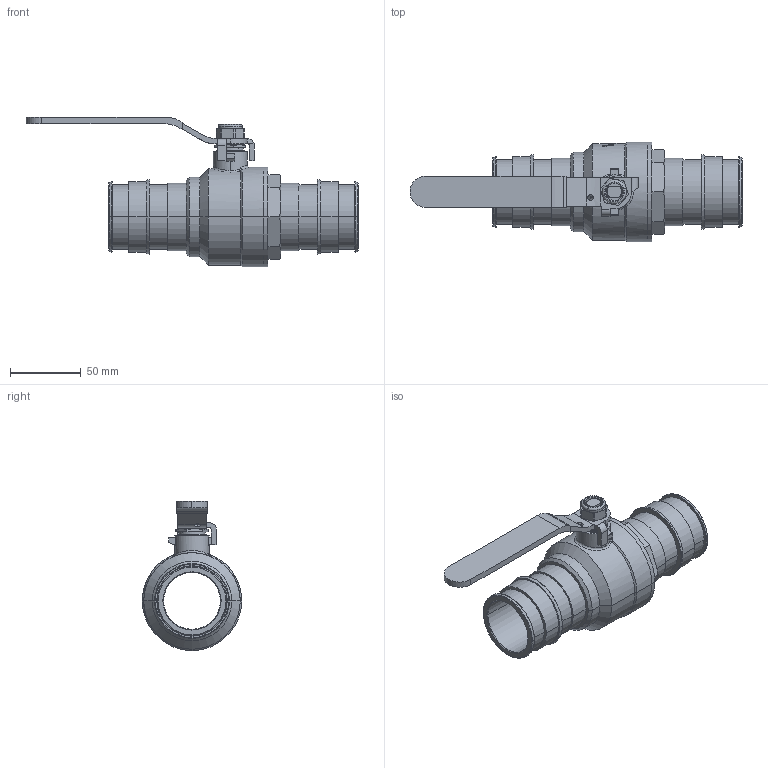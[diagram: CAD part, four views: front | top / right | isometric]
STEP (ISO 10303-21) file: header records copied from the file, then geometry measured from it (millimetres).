
FILE_DESCRIPTION(('Open CASCADE Model'),'2;1');
FILE_NAME('Open CASCADE Shape Model','2021-11-23T09:42:51',('Author'),( 'Open CASCADE'),'Open CASCADE STEP processor 7.3','Open CASCADE 7.3' ,'Unknown');
FILE_SCHEMA(('AUTOMOTIVE_DESIGN { 1 0 10303 214 1 1 1 1 }'));
Length unit declared in the file: millimetre
Products named in the file (12): Open CASCADE STEP translator 7.3 1; Open CASCADE STEP translator 7.3 1.1; Open CASCADE STEP translator 7.3 1.2; Open CASCADE STEP translator 7.3 1.3; Open CASCADE STEP translator 7.3 1.4; Open CASCADE STEP translator 7.3 1.5; Open CASCADE STEP translator 7.3 1.6; Open CASCADE STEP translator 7.3 1.7; Open CASCADE STEP translator 7.3 1.8; Open CASCADE STEP translator 7.3 1.9; Open CASCADE STEP translator 7.3 1.10; Open CASCADE STEP translator 7.3 1.11
Assembly tree (11 placements, depth 2):
  Open CASCADE STEP translator 7.3 1
    Open CASCADE STEP translator 7.3 1.1
    Open CASCADE STEP translator 7.3 1.2
    Open CASCADE STEP translator 7.3 1.3
    Open CASCADE STEP translator 7.3 1.4
    Open CASCADE STEP translator 7.3 1.5
    Open CASCADE STEP translator 7.3 1.6
    Open CASCADE STEP translator 7.3 1.7
    Open CASCADE STEP translator 7.3 1.8
    Open CASCADE STEP translator 7.3 1.9
    Open CASCADE STEP translator 7.3 1.10
    Open CASCADE STEP translator 7.3 1.11
Bounding box: 233.96 x 70 x 105.15 mm (x, y, z)
Volume: 181184.3 mm3; surface area: 118629.6 mm2
Topology: 11 solids, 12 shells, 585 faces, 1483 edges, 953 vertices
Faces by surface type: cylinder 186, plane 154, bspline 118, cone 83, torus 34, sphere 8, revolution 2
Entity records: 103573 total; most frequent: CARTESIAN_POINT 77077, DIRECTION 3983, ORIENTED_EDGE 2958, PCURVE 2958, DEFINITIONAL_REPRESENTATION 2958, LINE 1985, VECTOR 1985, B_SPLINE_CURVE_WITH_KNOTS 1528
